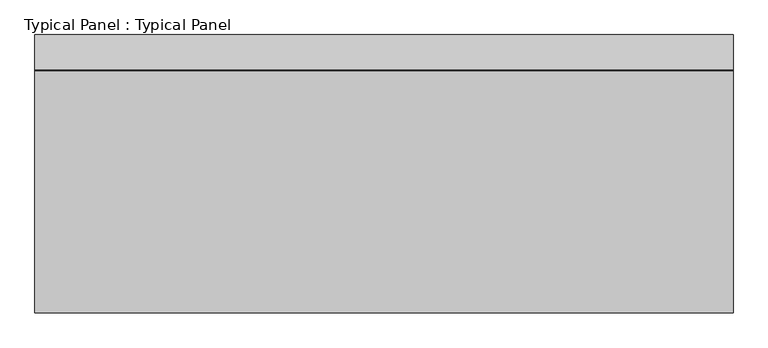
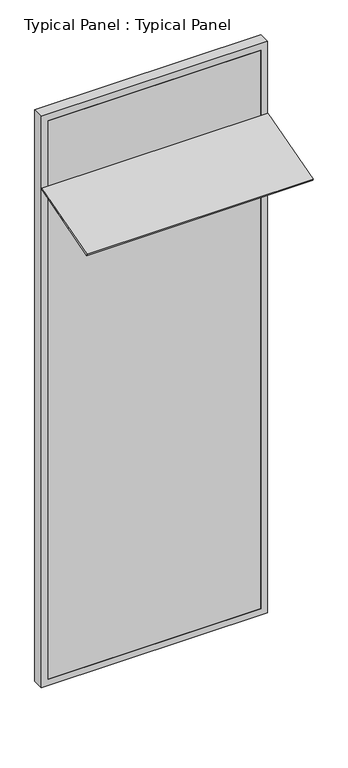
"""IFC4 building model written with IfcOpenShell, lengths in millimetres: plate geometry, Typical Panel : Typical Panel."""

from ifc_helpers import new_model, si_unit, frame, origin, place, context, project, spatial, polyline, outline, extrude, source, transform, mapped, element, save


def typical_panel_typical_panel_484bad6c(model_context):
    return source(origin(), model_context, "Body", "SweptSolid", [
        extrude(outline(polyline([(0.0, -540.0), (0.0, 0.0), (1500.0, 0.0), (1500.0, -540.0), (0.0, -540.0)])), frame((750.0, -521.3249422, 3341.5432109), z_axis=(0.0, -0.27563735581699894, 0.961261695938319), x_axis=(-1.0, 0.0, 0.0)), (0.0, 0.0, 1.0), 10.0),
        extrude(outline(polyline([(0.0, -750.0), (0.0, 750.0), (4000.0, 750.0), (4000.0, -750.0), (0.0, -750.0)]), holes=[polyline([(45.0, 705.0), (45.0, -705.0), (3955.0, -705.0), (3955.0, 705.0), (45.0, 705.0)])]), frame((0.0, -1.5797986, 0.0), z_axis=(0.0, 1.0, 0.0), x_axis=(0.0, 0.0, 1.0)), (0.0, 0.0, 1.0), 75.0),
        extrude(outline(polyline([(705.0, -1.5797986), (-705.0, -1.5797986), (-705.0, 13.4202014), (705.0, 13.4202014), (705.0, -1.5797986)])), frame((0.0, 0.0, 45.0), z_axis=(0.0, 0.0, 1.0), x_axis=(1.0, 0.0, 0.0)), (0.0, 0.0, 1.0), 3910.0),
    ])


if __name__ == "__main__":
    model = new_model("IFC4")
    model_context = context("Model", 3, world=origin())
    ifc_project = project(units=[si_unit("LENGTHUNIT", "METRE", prefix="MILLI")], contexts=[model_context])
    site = spatial("IfcSite", under=ifc_project)
    building = spatial("IfcBuilding", under=site)
    placement = place(None, origin())
    typical_panel_typical_panel_shape = typical_panel_typical_panel_484bad6c(model_context)
    element("IfcPlate", 1, ObjectType="Typical Panel : Typical Panel", at=placement, inside=building, context=model_context, shape_type="MappedRepresentation", body=[
        mapped(typical_panel_typical_panel_shape, transform((0.0, 0.0, 0.0), x_axis=(1.0, 0.0, 0.0), y_axis=(0.0, 1.0, 0.0), z_axis=(0.0, 0.0, 1.0))),
    ])
    save(model, "model.ifc")
